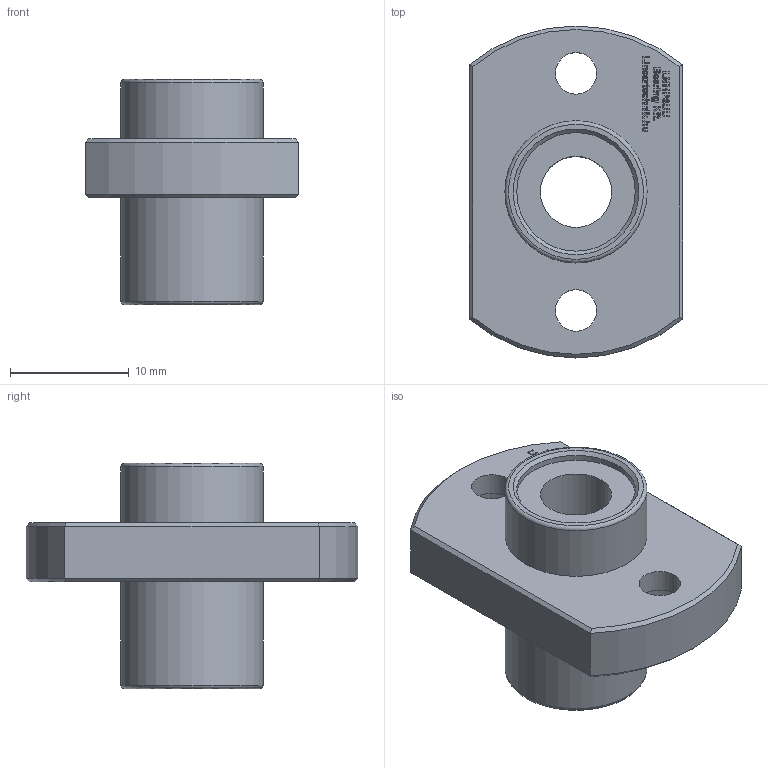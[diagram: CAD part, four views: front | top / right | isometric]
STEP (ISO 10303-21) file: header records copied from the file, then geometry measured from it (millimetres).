
FILE_DESCRIPTION(/* description */ (''),/* implementation_level */ '2;1');
FILE_NAME(/* name */ 'LMHP6UU',/* time_stamp */ '2019-07-09T13:43:27+02:00',/* author */ ('VĂ©gh MĂˇtĂ©'),/* organization */ ('Bearing Kft'),/* preprocessor_version */ 'ST-DEVELOPER v16.7',/* originating_system */ 'DEX',/* authorisation */ $);
FILE_SCHEMA (('AUTOMOTIVE_DESIGN {1 0 10303 214 3 1 1}'));
Length unit declared in the file: millimetre
Products named in the file (1): LMHP6UU
Bounding box: 18 x 28 x 19 mm (x, y, z)
Volume: 3075.5 mm3; surface area: 2271 mm2
Topology: 1 solids, 1 shells, 341 faces, 848 edges, 562 vertices
Faces by surface type: plane 254, bspline 66, cylinder 13, cone 6, torus 2
Full cylindrical faces by diameter (mm): 3.5 x2, 6 x3, 10 x2, 12 x2
Entity records: 12409 total; most frequent: CARTESIAN_POINT 4735, ORIENTED_EDGE 1662, DIRECTION 1277, EDGE_CURVE 831, LINE 657, VECTOR 657, VERTEX_POINT 560, EDGE_LOOP 415
